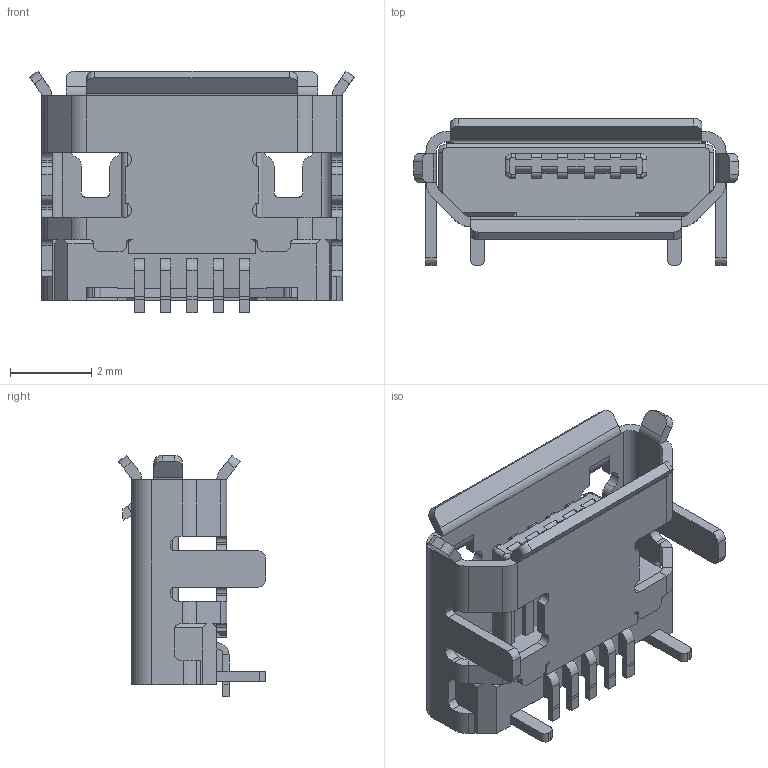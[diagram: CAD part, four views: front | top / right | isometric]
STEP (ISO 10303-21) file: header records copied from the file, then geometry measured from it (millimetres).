
FILE_DESCRIPTION((''),'2;1');
FILE_NAME('_MICRO_USB_5P_NO_POST-2_1_ASM','2023-02-02T',('Administrator'),(''),'PRO/ENGINEER BY PARAMETRIC TECHNOLOGY CORPORATION, 2009440','PRO/ENGINEER BY PARAMETRIC TECHNOLOGY CORPORATION, 2009440','');
FILE_SCHEMA(('CONFIG_CONTROL_DESIGN'));
Length unit declared in the file: millimetre
Products named in the file (9): MANIFOLD_SOLID_BREP__21606_1; MANIFOLD_SOLID_BREP__21606_2; MANIFOLD_SOLID_BREP__21606_3; MANIFOLD_SOLID_BREP__21606_4; MANIFOLD_SOLID_BREP__21606_5; MANIFOLD_SOLID_BREP__21606_6; __MICRO_USB_5P_NO_POST-2_1; PRT0015; _MICRO_USB_5P_NO_POST-2_1_ASM
Assembly tree (8 placements, depth 2):
  _MICRO_USB_5P_NO_POST-2_1_ASM
    MANIFOLD_SOLID_BREP__21606_1
    MANIFOLD_SOLID_BREP__21606_2
    MANIFOLD_SOLID_BREP__21606_3
    MANIFOLD_SOLID_BREP__21606_4
    MANIFOLD_SOLID_BREP__21606_5
    MANIFOLD_SOLID_BREP__21606_6
    __MICRO_USB_5P_NO_POST-2_1
    PRT0015
Bounding box: 8 x 3.62 x 5.95 mm (x, y, z)
Volume: 40.8 mm3; surface area: 284 mm2
Topology: 10 solids, 15 shells, 726 faces, 1941 edges, 1219 vertices
Faces by surface type: plane 511, cylinder 208, bspline 4, cone 2, extrusion 1
Entity records: 22967 total; most frequent: CARTESIAN_POINT 4696, ORIENTED_EDGE 3782, DIRECTION 3679, EDGE_CURVE 1941, VECTOR 1455, LINE 1454, VERTEX_POINT 1219, AXIS2_PLACEMENT_3D 1112
